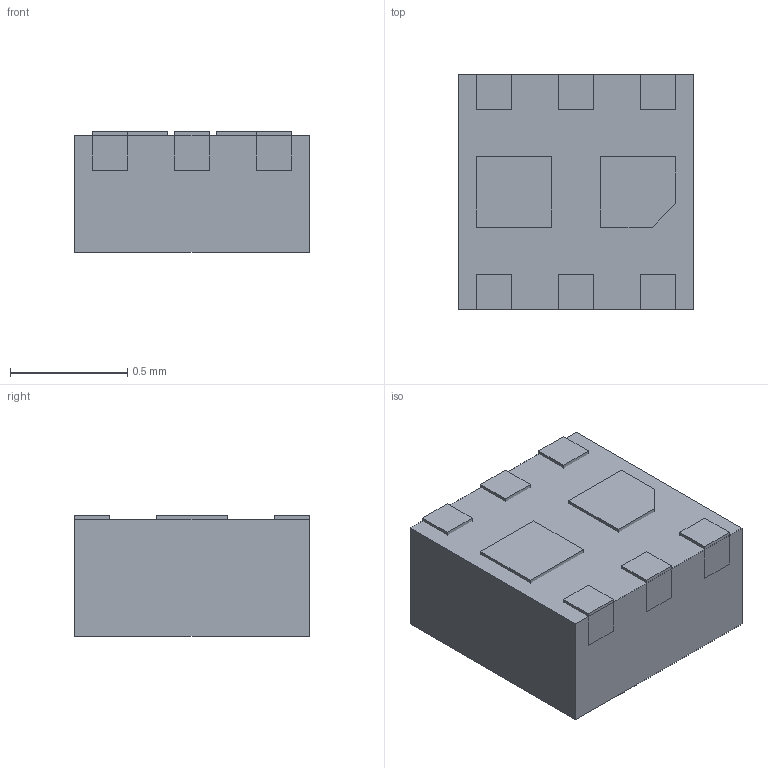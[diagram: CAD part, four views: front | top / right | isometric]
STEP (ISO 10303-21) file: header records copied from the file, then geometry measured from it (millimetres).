
FILE_DESCRIPTION (( 'STEP AP203' ), '1' );
FILE_NAME ('3D DFN1010-6L.STEP', '2023-07-24T05:39:28', ( '' ), ( '' ), 'SwSTEP 2.0', 'SolidWorks 2022', '' );
FILE_SCHEMA (( 'CONFIG_CONTROL_DESIGN' ));
Length unit declared in the file: millimetre
Products named in the file (1): 3D DFN1010-6L
Bounding box: 1 x 1 x 0.52 mm (x, y, z)
Surface area: 5.6 mm2
Topology: 9 solids, 9 shells, 55 faces, 111 edges, 74 vertices
Faces by surface type: plane 55
Entity records: 1466 total; most frequent: CARTESIAN_POINT 241, DIRECTION 223, ORIENTED_EDGE 222, VECTOR 111, EDGE_CURVE 111, LINE 111, VERTEX_POINT 74, AXIS2_PLACEMENT_3D 56
